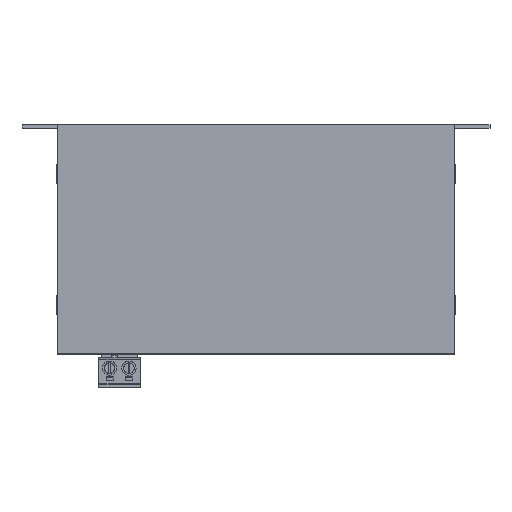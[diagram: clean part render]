
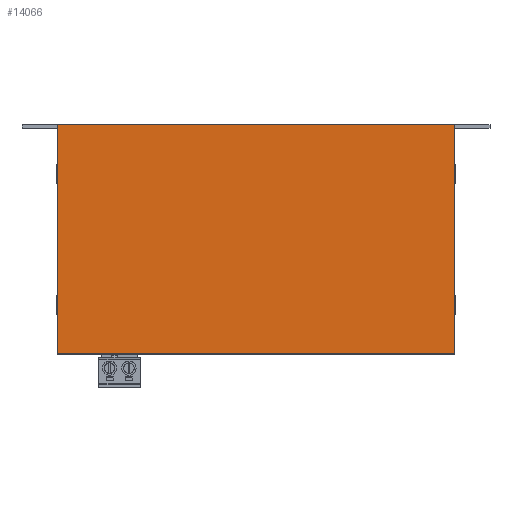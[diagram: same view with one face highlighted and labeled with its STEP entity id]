
A CAD part, top view. The second image highlights one B-rep face of the part: STEP entity #14066.
In plain terms, the highlighted planar face has unit normal (0, 0, 1).
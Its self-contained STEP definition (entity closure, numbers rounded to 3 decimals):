
#2082 = PLANE('',#2083);
#2083 = AXIS2_PLACEMENT_3D('',#2084,#2085,#2086);
#2084 = CARTESIAN_POINT('',(10.,0.,0.));
#2085 = DIRECTION('',(1.,0.,0.));
#2086 = DIRECTION('',(0.,0.,1.));
#2108 = PLANE('',#2109);
#2109 = AXIS2_PLACEMENT_3D('',#2110,#2111,#2112);
#2110 = CARTESIAN_POINT('',(0.,0.,0.));
#2111 = DIRECTION('',(0.,1.,0.));
#2112 = DIRECTION('',(0.,0.,1.));
#2162 = PLANE('',#2163);
#2163 = AXIS2_PLACEMENT_3D('',#2164,#2165,#2166);
#2164 = CARTESIAN_POINT('',(122.6,63.95,35.9));
#2165 = DIRECTION('',(1.,0.,0.));
#2166 = DIRECTION('',(0.,0.,1.));
#2244 = PLANE('',#2245);
#2245 = AXIS2_PLACEMENT_3D('',#2246,#2247,#2248);
#2246 = CARTESIAN_POINT('',(0.,64.95,0.));
#2247 = DIRECTION('',(0.,1.,0.));
#2248 = DIRECTION('',(0.,0.,1.));
#4721 = VERTEX_POINT('',#4722);
#4722 = CARTESIAN_POINT('',(10.,64.95,35.9));
#4742 = EDGE_CURVE('',#4721,#4743,#4745,.T.);
#4743 = VERTEX_POINT('',#4744);
#4744 = CARTESIAN_POINT('',(122.6,64.95,35.9));
#4745 = SURFACE_CURVE('',#4746,(#4750,#4757),.PCURVE_S1.);
#4746 = LINE('',#4747,#4748);
#4747 = CARTESIAN_POINT('',(0.,64.95,35.9));
#4748 = VECTOR('',#4749,1.);
#4749 = DIRECTION('',(1.,0.,0.));
#4750 = PCURVE('',#2244,#4751);
#4751 = DEFINITIONAL_REPRESENTATION('',(#4752),#4756);
#4752 = LINE('',#4753,#4754);
#4753 = CARTESIAN_POINT('',(35.9,0.));
#4754 = VECTOR('',#4755,1.);
#4755 = DIRECTION('',(0.,1.));
#4756 = ( GEOMETRIC_REPRESENTATION_CONTEXT(2) 
PARAMETRIC_REPRESENTATION_CONTEXT() REPRESENTATION_CONTEXT('2D SPACE',''
  ) );
#4757 = PCURVE('',#4758,#4763);
#4758 = PLANE('',#4759);
#4759 = AXIS2_PLACEMENT_3D('',#4760,#4761,#4762);
#4760 = CARTESIAN_POINT('',(0.,0.,35.9));
#4761 = DIRECTION('',(0.,0.,1.));
#4762 = DIRECTION('',(1.,0.,0.));
#4763 = DEFINITIONAL_REPRESENTATION('',(#4764),#4768);
#4764 = LINE('',#4765,#4766);
#4765 = CARTESIAN_POINT('',(0.,64.95));
#4766 = VECTOR('',#4767,1.);
#4767 = DIRECTION('',(1.,0.));
#4768 = ( GEOMETRIC_REPRESENTATION_CONTEXT(2) 
PARAMETRIC_REPRESENTATION_CONTEXT() REPRESENTATION_CONTEXT('2D SPACE',''
  ) );
#4990 = VERTEX_POINT('',#4991);
#4991 = CARTESIAN_POINT('',(10.,0.,35.9));
#5036 = EDGE_CURVE('',#4990,#4721,#5037,.T.);
#5037 = SURFACE_CURVE('',#5038,(#5042,#5049),.PCURVE_S1.);
#5038 = LINE('',#5039,#5040);
#5039 = CARTESIAN_POINT('',(10.,31.,35.9));
#5040 = VECTOR('',#5041,1.);
#5041 = DIRECTION('',(0.,1.,0.));
#5042 = PCURVE('',#2082,#5043);
#5043 = DEFINITIONAL_REPRESENTATION('',(#5044),#5048);
#5044 = LINE('',#5045,#5046);
#5045 = CARTESIAN_POINT('',(35.9,-31.));
#5046 = VECTOR('',#5047,1.);
#5047 = DIRECTION('',(0.,-1.));
#5048 = ( GEOMETRIC_REPRESENTATION_CONTEXT(2) 
PARAMETRIC_REPRESENTATION_CONTEXT() REPRESENTATION_CONTEXT('2D SPACE',''
  ) );
#5049 = PCURVE('',#4758,#5050);
#5050 = DEFINITIONAL_REPRESENTATION('',(#5051),#5055);
#5051 = LINE('',#5052,#5053);
#5052 = CARTESIAN_POINT('',(10.,31.));
#5053 = VECTOR('',#5054,1.);
#5054 = DIRECTION('',(0.,1.));
#5055 = ( GEOMETRIC_REPRESENTATION_CONTEXT(2) 
PARAMETRIC_REPRESENTATION_CONTEXT() REPRESENTATION_CONTEXT('2D SPACE',''
  ) );
#5975 = EDGE_CURVE('',#4990,#5976,#5978,.T.);
#5976 = VERTEX_POINT('',#5977);
#5977 = CARTESIAN_POINT('',(122.6,0.,35.9));
#5978 = SURFACE_CURVE('',#5979,(#5983,#5990),.PCURVE_S1.);
#5979 = LINE('',#5980,#5981);
#5980 = CARTESIAN_POINT('',(0.,0.,35.9));
#5981 = VECTOR('',#5982,1.);
#5982 = DIRECTION('',(1.,0.,0.));
#5983 = PCURVE('',#2108,#5984);
#5984 = DEFINITIONAL_REPRESENTATION('',(#5985),#5989);
#5985 = LINE('',#5986,#5987);
#5986 = CARTESIAN_POINT('',(35.9,0.));
#5987 = VECTOR('',#5988,1.);
#5988 = DIRECTION('',(0.,1.));
#5989 = ( GEOMETRIC_REPRESENTATION_CONTEXT(2) 
PARAMETRIC_REPRESENTATION_CONTEXT() REPRESENTATION_CONTEXT('2D SPACE',''
  ) );
#5990 = PCURVE('',#4758,#5991);
#5991 = DEFINITIONAL_REPRESENTATION('',(#5992),#5996);
#5992 = LINE('',#5993,#5994);
#5993 = CARTESIAN_POINT('',(0.,0.));
#5994 = VECTOR('',#5995,1.);
#5995 = DIRECTION('',(1.,0.));
#5996 = ( GEOMETRIC_REPRESENTATION_CONTEXT(2) 
PARAMETRIC_REPRESENTATION_CONTEXT() REPRESENTATION_CONTEXT('2D SPACE',''
  ) );
#6103 = EDGE_CURVE('',#5976,#4743,#6104,.T.);
#6104 = SURFACE_CURVE('',#6105,(#6109,#6116),.PCURVE_S1.);
#6105 = LINE('',#6106,#6107);
#6106 = CARTESIAN_POINT('',(122.6,0.,35.9));
#6107 = VECTOR('',#6108,1.);
#6108 = DIRECTION('',(0.,1.,0.));
#6109 = PCURVE('',#2162,#6110);
#6110 = DEFINITIONAL_REPRESENTATION('',(#6111),#6115);
#6111 = LINE('',#6112,#6113);
#6112 = CARTESIAN_POINT('',(0.,63.95));
#6113 = VECTOR('',#6114,1.);
#6114 = DIRECTION('',(0.,-1.));
#6115 = ( GEOMETRIC_REPRESENTATION_CONTEXT(2) 
PARAMETRIC_REPRESENTATION_CONTEXT() REPRESENTATION_CONTEXT('2D SPACE',''
  ) );
#6116 = PCURVE('',#4758,#6117);
#6117 = DEFINITIONAL_REPRESENTATION('',(#6118),#6122);
#6118 = LINE('',#6119,#6120);
#6119 = CARTESIAN_POINT('',(122.6,0.));
#6120 = VECTOR('',#6121,1.);
#6121 = DIRECTION('',(0.,1.));
#6122 = ( GEOMETRIC_REPRESENTATION_CONTEXT(2) 
PARAMETRIC_REPRESENTATION_CONTEXT() REPRESENTATION_CONTEXT('2D SPACE',''
  ) );
#14066 = ADVANCED_FACE('',(#14067),#4758,.T.);
#14067 = FACE_BOUND('',#14068,.T.);
#14068 = EDGE_LOOP('',(#14069,#14070,#14071,#14072));
#14069 = ORIENTED_EDGE('',*,*,#5036,.F.);
#14070 = ORIENTED_EDGE('',*,*,#5975,.T.);
#14071 = ORIENTED_EDGE('',*,*,#6103,.T.);
#14072 = ORIENTED_EDGE('',*,*,#4742,.F.);
